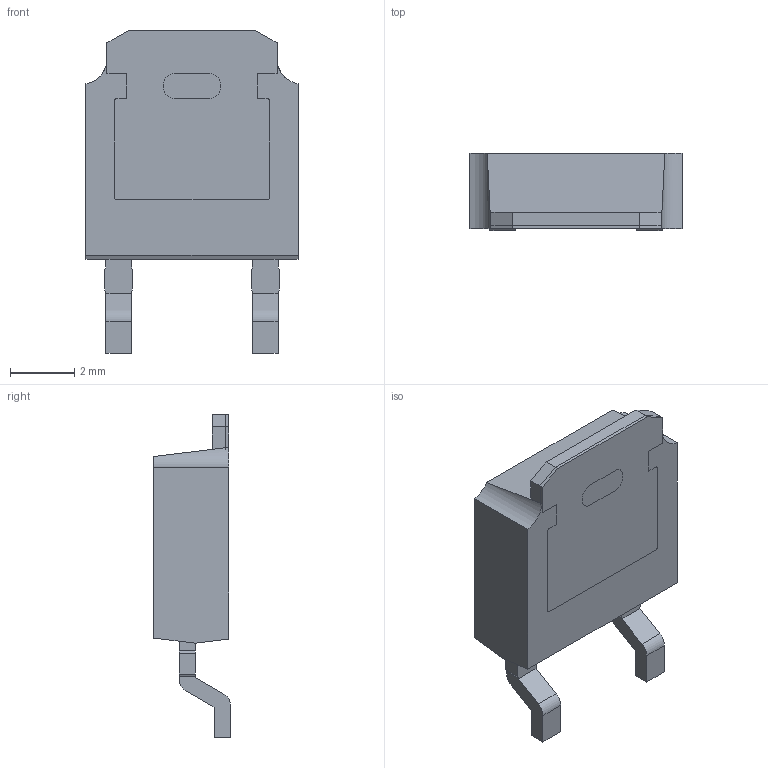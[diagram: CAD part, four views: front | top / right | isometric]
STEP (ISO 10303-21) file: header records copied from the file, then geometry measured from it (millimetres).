
FILE_DESCRIPTION (( 'STEP AP214' ), '1' );
FILE_NAME ('TO-252AA - 2LD .STEP', '2024-06-21T05:26:42', ( '' ), ( '' ), 'SwSTEP 2.0', 'SolidWorks 2021', '' );
FILE_SCHEMA (( 'AUTOMOTIVE_DESIGN' ));
Length unit declared in the file: millimetre
Products named in the file (1): TO-252AA - 2LD  
Bounding box: 6.6 x 2.39 x 10.05 mm (x, y, z)
Volume: 95.3 mm3; surface area: 215.6 mm2
Topology: 2 solids, 2 shells, 109 faces, 302 edges, 199 vertices
Faces by surface type: plane 85, cylinder 22, bspline 2
Entity records: 4113 total; most frequent: CARTESIAN_POINT 635, ORIENTED_EDGE 604, DIRECTION 556, EDGE_CURVE 302, VECTOR 252, LINE 252, VERTEX_POINT 199, AXIS2_PLACEMENT_3D 152
